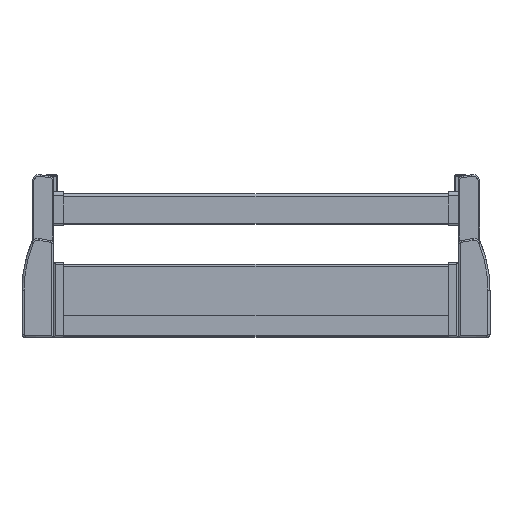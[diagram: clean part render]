
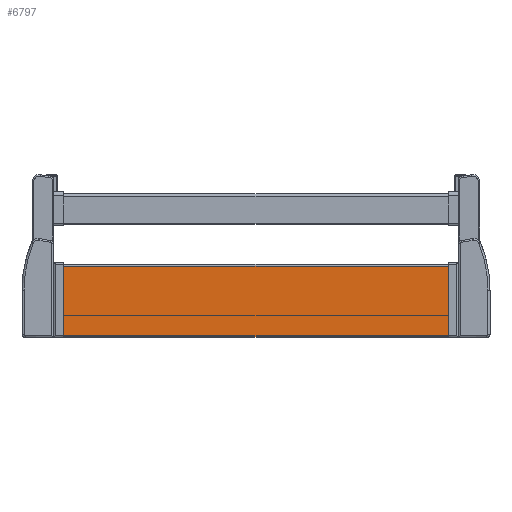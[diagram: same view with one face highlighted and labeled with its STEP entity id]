
A CAD part, top view. The second image highlights one B-rep face of the part: STEP entity #6797.
In plain terms, the highlighted planar face has unit normal (0, 0, 1).
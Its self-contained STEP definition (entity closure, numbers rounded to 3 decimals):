
#3456 = LINE ( 'NONE', #3509, #3508 ) ;
#3462 = CARTESIAN_POINT ( 'NONE',  ( 188.8, -23., 1.4 ) ) ;
#3500 = CARTESIAN_POINT ( 'NONE',  ( 188.8, -92.5, 1.4 ) ) ;
#3507 = DIRECTION ( 'NONE',  ( 0., 1., 0. ) ) ;
#3508 = VECTOR ( 'NONE', #3507, 1000. ) ;
#3509 = CARTESIAN_POINT ( 'NONE',  ( 188.8, -92.5, 1.4 ) ) ;
#3544 = VECTOR ( 'NONE', #3798, 1000. ) ;
#3545 = CARTESIAN_POINT ( 'NONE',  ( 262.556, -23., 1.4 ) ) ;
#3546 = LINE ( 'NONE', #3545, #3544 ) ;
#3798 = DIRECTION ( 'NONE',  ( -1., 0., 0. ) ) ;
#3896 = DIRECTION ( 'NONE',  ( -1., 0., 0. ) ) ;
#3897 = VECTOR ( 'NONE', #3896, 1000. ) ;
#3898 = CARTESIAN_POINT ( 'NONE',  ( 262.556, -92.5, 1.4 ) ) ;
#3899 = LINE ( 'NONE', #3898, #3897 ) ;
#4002 = DIRECTION ( 'NONE',  ( 0., 1., 0. ) ) ;
#4003 = DIRECTION ( 'NONE',  ( 0., 0., -1. ) ) ;
#4004 = CARTESIAN_POINT ( 'NONE',  ( 262.556, -92.5, 1.4 ) ) ;
#4007 = AXIS2_PLACEMENT_3D ( 'NONE', #4004, #4003, #4002 ) ;
#4008 = PLANE ( 'NONE',  #4007 ) ;
#4009 = FACE_OUTER_BOUND ( 'NONE', #6918, .T. ) ;
#4015 = CARTESIAN_POINT ( 'NONE',  ( -188.8, -92.5, 1.4 ) ) ;
#4352 = VECTOR ( 'NONE', #4367, 1000. ) ;
#4367 = DIRECTION ( 'NONE',  ( 0., 1., 0. ) ) ;
#4368 = CARTESIAN_POINT ( 'NONE',  ( -188.8, -92.5, 1.4 ) ) ;
#4369 = LINE ( 'NONE', #4368, #4352 ) ;
#4370 = CARTESIAN_POINT ( 'NONE',  ( -188.8, -23., 1.4 ) ) ;
#6490 = VERTEX_POINT ( 'NONE', #3462 ) ;
#6499 = EDGE_CURVE ( 'NONE', #6506, #6490, #3456, .T. ) ;
#6506 = VERTEX_POINT ( 'NONE', #3500 ) ;
#6738 = EDGE_CURVE ( 'NONE', #6506, #6794, #3899, .T. ) ;
#6794 = VERTEX_POINT ( 'NONE', #4015 ) ;
#6797 = ADVANCED_FACE ( 'NONE', ( #4009 ), #4008, .F. ) ;
#6918 = EDGE_LOOP ( 'NONE', ( #6919, #6920, #6921, #6938 ) ) ;
#6919 = ORIENTED_EDGE ( 'NONE', *, *, #6738, .F. ) ;
#6920 = ORIENTED_EDGE ( 'NONE', *, *, #6499, .T. ) ;
#6921 = ORIENTED_EDGE ( 'NONE', *, *, #6922, .T. ) ;
#6922 = EDGE_CURVE ( 'NONE', #6490, #6937, #3546, .T. ) ;
#6937 = VERTEX_POINT ( 'NONE', #4370 ) ;
#6938 = ORIENTED_EDGE ( 'NONE', *, *, #6939, .F. ) ;
#6939 = EDGE_CURVE ( 'NONE', #6794, #6937, #4369, .T. ) ;
